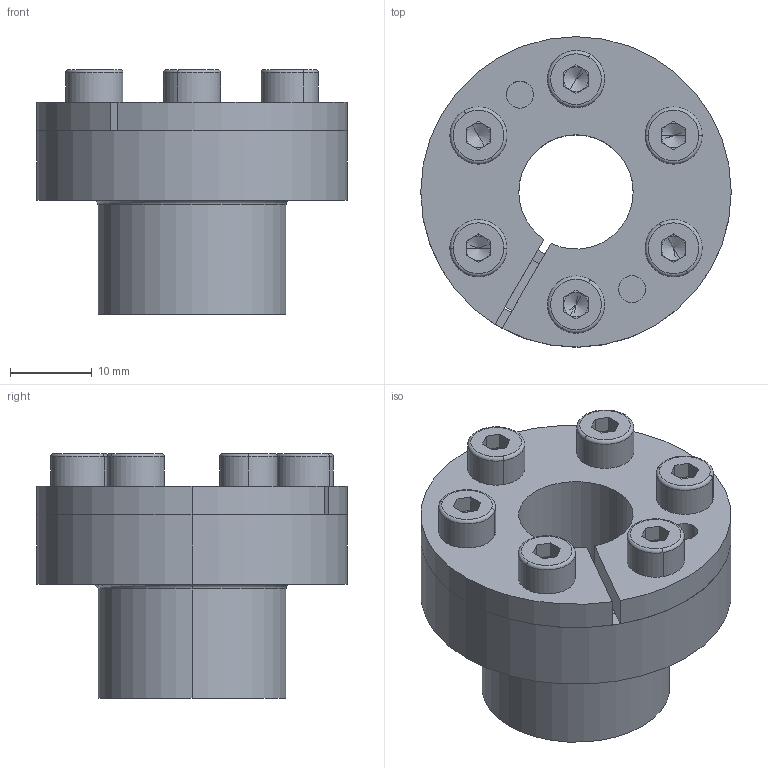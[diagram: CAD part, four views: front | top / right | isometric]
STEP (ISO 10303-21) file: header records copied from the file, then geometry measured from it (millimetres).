
FILE_DESCRIPTION (( 'STEP AP214' ), '1' );
FILE_NAME ('CONEX-B-14x23.step', '2013-04-04T12:41:13', ( 'Pc' ), ( '' ), 'SwSTEP 2.0', 'SolidWorks 2013', '' );
FILE_SCHEMA (( 'AUTOMOTIVE_DESIGN' ));
Length unit declared in the file: millimetre
Products named in the file (1): CONEX-B-14x23
Bounding box: 38 x 38 x 29.98 mm (x, y, z)
Volume: 13988.8 mm3; surface area: 13136.5 mm2
Topology: 9 solids, 9 shells, 230 faces, 542 edges, 324 vertices
Faces by surface type: plane 102, cylinder 68, torus 30, cone 30
Entity records: 9234 total; most frequent: DIRECTION 1250, CARTESIAN_POINT 1123, ORIENTED_EDGE 1060, EDGE_CURVE 530, AXIS2_PLACEMENT_3D 497, VERTEX_POINT 324, EDGE_LOOP 266, CIRCLE 266
